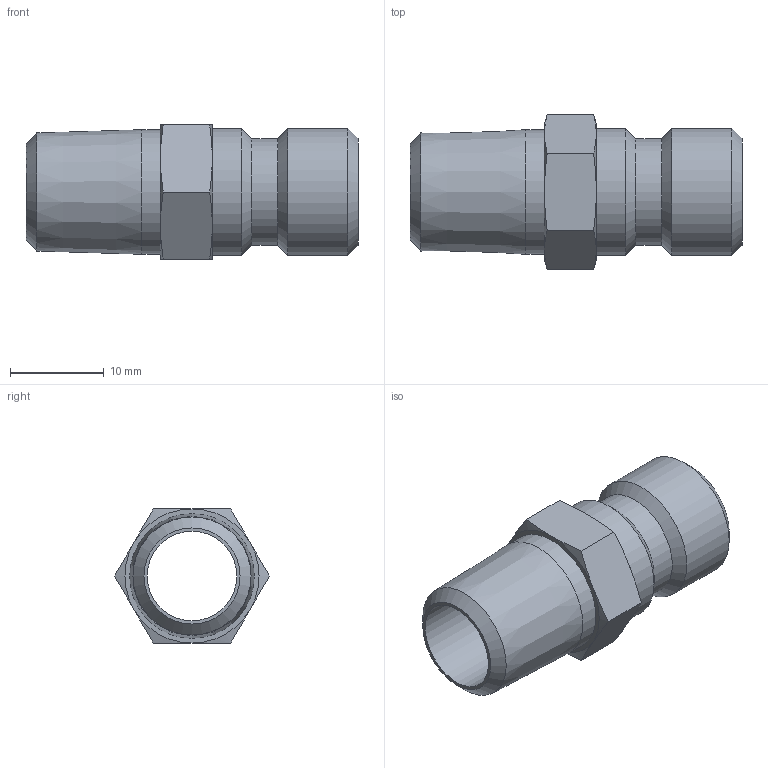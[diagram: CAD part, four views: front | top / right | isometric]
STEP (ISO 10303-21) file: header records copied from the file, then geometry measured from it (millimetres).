
FILE_DESCRIPTION(/* description */ ('STEP AP214'),/* implementation_level */ '2;1');
FILE_NAME(/* name */ 'JP-352',/* time_stamp */ '2024-12-19T08:35:10+01:00',/* author */ ('License CC BY-ND 4.0'),/* organization */ ('CADENAS'),/* preprocessor_version */ 'ST-DEVELOPER v19.3',/* originating_system */ 'PARTsolutions',/* authorisation */ ' ');
FILE_SCHEMA (('AUTOMOTIVE_DESIGN {1 0 10303 214 3 1 1}'));
Length unit declared in the file: inch
Products named in the file (1): JP-352
Bounding box: 35.33 x 16.48 x 14.27 mm (x, y, z)
Volume: 2344.1 mm3; surface area: 2708.9 mm2
Topology: 1 solids, 1 shells, 32 faces, 65 edges, 37 vertices
Faces by surface type: cone 17, plane 10, cylinder 5
Full cylindrical faces by diameter (mm): 9.525 x1, 11.351 x1, 13.256 x1, 13.513 x2
Entity records: 832 total; most frequent: CARTESIAN_POINT 197, DIRECTION 122, ORIENTED_EDGE 110, AXIS2_PLACEMENT_3D 58, EDGE_CURVE 55, EDGE_LOOP 46, FACE_BOUND 46, VERTEX_POINT 37
